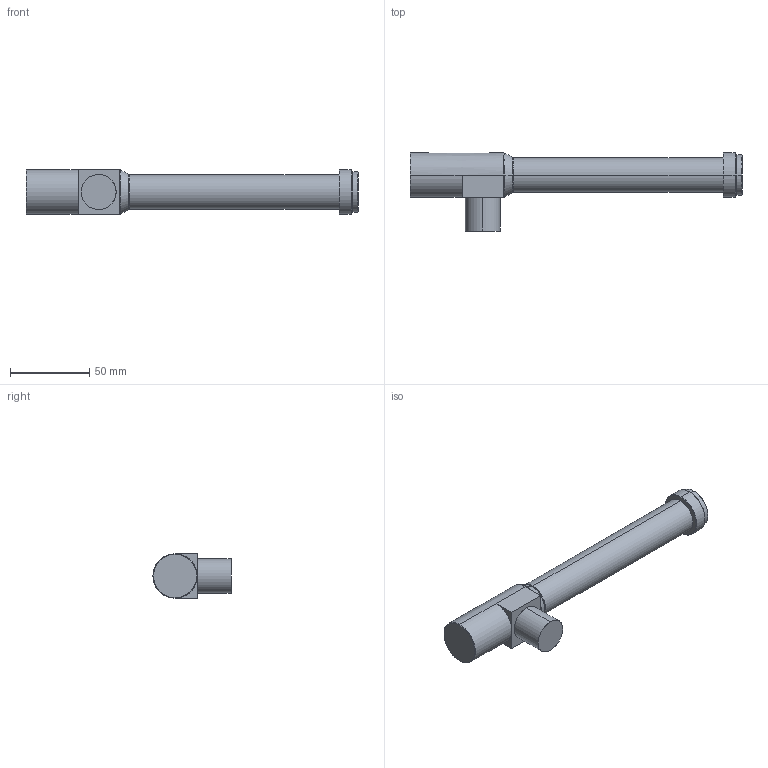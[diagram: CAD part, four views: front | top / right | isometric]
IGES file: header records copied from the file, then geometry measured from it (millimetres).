
Start section: SolidWorks IGES file using analytic representation for surfaces
Global section: file name: C:\Users\Administrator\Desktop\WWH100-63CTV3.IGS; native system: SolidWorks 2017; preprocessor: SolidWorks 2017; author: Administrator; date: 210511.102620; units: millimetre
Bounding box: 209.7 x 49.4 x 28 mm (x, y, z)
Surface area: 19357.4 mm2 (no closed solid volume)
Topology: 0 solids, 0 shells, 40 faces, 520 edges, 520 vertices
Faces by surface type: revolution 23, bspline 17
